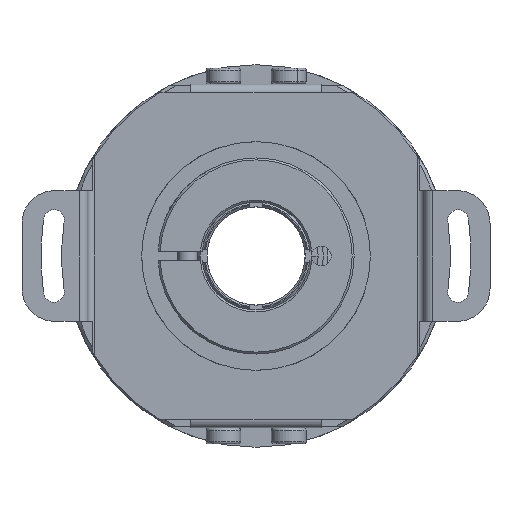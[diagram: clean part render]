
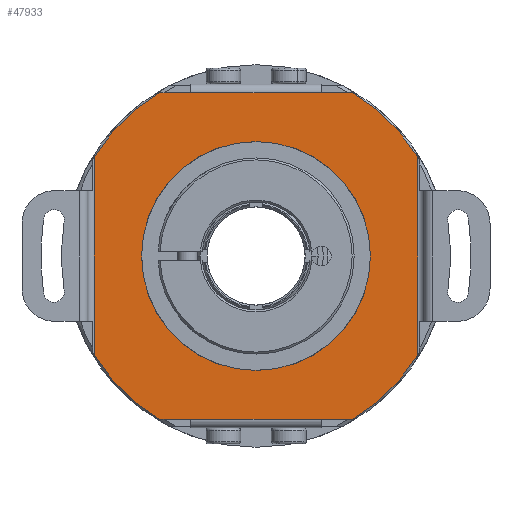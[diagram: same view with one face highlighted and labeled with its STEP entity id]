
A CAD part, front view. The second image highlights one B-rep face of the part: STEP entity #47933.
In plain terms, the highlighted planar face has unit normal (0, -1, 0).
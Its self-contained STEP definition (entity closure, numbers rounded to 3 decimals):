
#697 = ORIENTED_EDGE ( 'NONE', *, *, #27371, .T. ) ;
#1571 = LINE ( 'NONE', #15754, #12895 ) ;
#1797 = EDGE_CURVE ( 'NONE', #51554, #11754, #34292, .T. ) ;
#2557 = DIRECTION ( 'NONE',  ( -1., 0., 0. ) ) ;
#2910 = ORIENTED_EDGE ( 'NONE', *, *, #36640, .F. ) ;
#3092 = EDGE_CURVE ( 'NONE', #30265, #12645, #8109, .T. ) ;
#3160 = VECTOR ( 'NONE', #48179, 1000. ) ;
#3532 = ORIENTED_EDGE ( 'NONE', *, *, #17607, .F. ) ;
#3596 = DIRECTION ( 'NONE',  ( 1., 0., 0. ) ) ;
#3630 = DIRECTION ( 'NONE',  ( 0., 0., -1. ) ) ;
#4819 = CARTESIAN_POINT ( 'NONE',  ( -24.7, -4.194, -35.2 ) ) ;
#5109 = VERTEX_POINT ( 'NONE', #29085 ) ;
#5330 = EDGE_CURVE ( 'NONE', #48681, #32140, #10357, .T. ) ;
#5736 = ORIENTED_EDGE ( 'NONE', *, *, #11663, .F. ) ;
#6005 = FACE_OUTER_BOUND ( 'NONE', #35288, .T. ) ;
#6186 = DIRECTION ( 'NONE',  ( 0., -1., 0. ) ) ;
#7395 = DIRECTION ( 'NONE',  ( -1., 0., 0. ) ) ;
#7532 = DIRECTION ( 'NONE',  ( 0., -1., 0. ) ) ;
#7896 = EDGE_LOOP ( 'NONE', ( #40392, #2910 ) ) ;
#8109 = CIRCLE ( 'NONE', #21113, 29. ) ;
#8230 = CARTESIAN_POINT ( 'NONE',  ( -14.697, -4.194, 25. ) ) ;
#9487 = DIRECTION ( 'NONE',  ( 0., 1., 0. ) ) ;
#9539 = CARTESIAN_POINT ( 'NONE',  ( 0., -4.194, 0. ) ) ;
#9849 = DIRECTION ( 'NONE',  ( 0., 0., -1. ) ) ;
#10132 = AXIS2_PLACEMENT_3D ( 'NONE', #44111, #7532, #3630 ) ;
#10357 = CIRCLE ( 'NONE', #20238, 29. ) ;
#10972 = CARTESIAN_POINT ( 'NONE',  ( -10., -4.194, 25. ) ) ;
#11345 = EDGE_CURVE ( 'NONE', #12645, #13894, #32348, .T. ) ;
#11663 = EDGE_CURVE ( 'NONE', #13058, #32140, #20241, .T. ) ;
#11754 = VERTEX_POINT ( 'NONE', #16740 ) ;
#12418 = EDGE_CURVE ( 'NONE', #36742, #5109, #19384, .T. ) ;
#12645 = VERTEX_POINT ( 'NONE', #35882 ) ;
#12818 = VECTOR ( 'NONE', #25595, 1000. ) ;
#12895 = VECTOR ( 'NONE', #3596, 1000. ) ;
#13058 = VERTEX_POINT ( 'NONE', #35745 ) ;
#13334 = AXIS2_PLACEMENT_3D ( 'NONE', #39477, #48882, #32448 ) ;
#13725 = VECTOR ( 'NONE', #2557, 1000. ) ;
#13753 = ORIENTED_EDGE ( 'NONE', *, *, #11345, .F. ) ;
#13894 = VERTEX_POINT ( 'NONE', #45563 ) ;
#14769 = ORIENTED_EDGE ( 'NONE', *, *, #5330, .T. ) ;
#15011 = VERTEX_POINT ( 'NONE', #30638 ) ;
#15071 = CARTESIAN_POINT ( 'NONE',  ( 0., -4.194, 0. ) ) ;
#15419 = CARTESIAN_POINT ( 'NONE',  ( 0., -4.194, 0. ) ) ;
#15754 = CARTESIAN_POINT ( 'NONE',  ( -10., -4.194, 25. ) ) ;
#16709 = AXIS2_PLACEMENT_3D ( 'NONE', #15419, #27479, #26945 ) ;
#16719 = FACE_BOUND ( 'NONE', #7896, .T. ) ;
#16740 = CARTESIAN_POINT ( 'NONE',  ( -24.7, -4.194, 15.196 ) ) ;
#17607 = EDGE_CURVE ( 'NONE', #40898, #15011, #18103, .T. ) ;
#17630 = CARTESIAN_POINT ( 'NONE',  ( 24.7, -4.194, -35.2 ) ) ;
#17654 = CARTESIAN_POINT ( 'NONE',  ( 24.7, -4.194, -15.196 ) ) ;
#18103 = LINE ( 'NONE', #34326, #13725 ) ;
#18965 = VECTOR ( 'NONE', #51895, 1000. ) ;
#19384 = CIRCLE ( 'NONE', #16709, 17.5 ) ;
#20238 = AXIS2_PLACEMENT_3D ( 'NONE', #35061, #38964, #26611 ) ;
#20241 = LINE ( 'NONE', #23567, #18965 ) ;
#21101 = ORIENTED_EDGE ( 'NONE', *, *, #40939, .F. ) ;
#21113 = AXIS2_PLACEMENT_3D ( 'NONE', #29640, #9487, #9849 ) ;
#21333 = CIRCLE ( 'NONE', #13334, 29. ) ;
#21586 = VECTOR ( 'NONE', #7395, 1000. ) ;
#22160 = VECTOR ( 'NONE', #43255, 1000. ) ;
#22205 = DIRECTION ( 'NONE',  ( 0., 0., 1. ) ) ;
#22875 = AXIS2_PLACEMENT_3D ( 'NONE', #9539, #6186, #42244 ) ;
#23567 = CARTESIAN_POINT ( 'NONE',  ( 25., -4.194, 25. ) ) ;
#24171 = CIRCLE ( 'NONE', #22875, 29. ) ;
#24235 = CARTESIAN_POINT ( 'NONE',  ( 24.7, -4.194, 15.196 ) ) ;
#24254 = CIRCLE ( 'NONE', #38000, 17.5 ) ;
#24851 = EDGE_CURVE ( 'NONE', #11754, #44321, #21333, .T. ) ;
#25404 = CARTESIAN_POINT ( 'NONE',  ( -24.7, -4.194, -15.196 ) ) ;
#25595 = DIRECTION ( 'NONE',  ( 0., 0., 1. ) ) ;
#26465 = CARTESIAN_POINT ( 'NONE',  ( -5., -4.194, 25. ) ) ;
#26597 = EDGE_CURVE ( 'NONE', #13058, #27024, #32359, .T. ) ;
#26611 = DIRECTION ( 'NONE',  ( 1., 0., 0. ) ) ;
#26636 = ORIENTED_EDGE ( 'NONE', *, *, #1797, .F. ) ;
#26945 = DIRECTION ( 'NONE',  ( 0., 0., -1. ) ) ;
#27024 = VERTEX_POINT ( 'NONE', #10972 ) ;
#27313 = EDGE_CURVE ( 'NONE', #51554, #15011, #24171, .T. ) ;
#27339 = CARTESIAN_POINT ( 'NONE',  ( -5., -4.194, -25. ) ) ;
#27371 = EDGE_CURVE ( 'NONE', #30265, #48681, #50126, .T. ) ;
#27479 = DIRECTION ( 'NONE',  ( 0., -1., 0. ) ) ;
#27650 = DIRECTION ( 'NONE',  ( 0., 0., -1. ) ) ;
#29085 = CARTESIAN_POINT ( 'NONE',  ( 0., -4.194, 17.5 ) ) ;
#29640 = CARTESIAN_POINT ( 'NONE',  ( 0., -4.194, 0. ) ) ;
#30265 = VERTEX_POINT ( 'NONE', #17654 ) ;
#30638 = CARTESIAN_POINT ( 'NONE',  ( -14.697, -4.194, -25. ) ) ;
#31532 = DIRECTION ( 'NONE',  ( 0., -1., 0. ) ) ;
#32140 = VERTEX_POINT ( 'NONE', #46539 ) ;
#32348 = LINE ( 'NONE', #47493, #22160 ) ;
#32359 = LINE ( 'NONE', #26465, #21586 ) ;
#32448 = DIRECTION ( 'NONE',  ( 0., 0., 1. ) ) ;
#32936 = CARTESIAN_POINT ( 'NONE',  ( 0., -4.194, -17.5 ) ) ;
#34292 = LINE ( 'NONE', #4819, #12818 ) ;
#34326 = CARTESIAN_POINT ( 'NONE',  ( -25., -4.194, -25. ) ) ;
#35061 = CARTESIAN_POINT ( 'NONE',  ( 0., -4.194, 0. ) ) ;
#35288 = EDGE_LOOP ( 'NONE', ( #26636, #48666, #3532, #21101, #13753, #38598, #697, #14769, #5736, #44482, #37769, #44152 ) ) ;
#35745 = CARTESIAN_POINT ( 'NONE',  ( 10., -4.194, 25. ) ) ;
#35882 = CARTESIAN_POINT ( 'NONE',  ( 14.697, -4.194, -25. ) ) ;
#36102 = PLANE ( 'NONE',  #10132 ) ;
#36640 = EDGE_CURVE ( 'NONE', #5109, #36742, #24254, .T. ) ;
#36742 = VERTEX_POINT ( 'NONE', #32936 ) ;
#37769 = ORIENTED_EDGE ( 'NONE', *, *, #51899, .F. ) ;
#37908 = LINE ( 'NONE', #27339, #3160 ) ;
#38000 = AXIS2_PLACEMENT_3D ( 'NONE', #15071, #31532, #27650 ) ;
#38598 = ORIENTED_EDGE ( 'NONE', *, *, #3092, .F. ) ;
#38964 = DIRECTION ( 'NONE',  ( 0., -1., 0. ) ) ;
#39477 = CARTESIAN_POINT ( 'NONE',  ( 0., -4.194, 0. ) ) ;
#40392 = ORIENTED_EDGE ( 'NONE', *, *, #12418, .F. ) ;
#40636 = VECTOR ( 'NONE', #22205, 1000. ) ;
#40898 = VERTEX_POINT ( 'NONE', #48350 ) ;
#40939 = EDGE_CURVE ( 'NONE', #13894, #40898, #37908, .T. ) ;
#42244 = DIRECTION ( 'NONE',  ( 0., 0., -1. ) ) ;
#43255 = DIRECTION ( 'NONE',  ( -1., 0., 0. ) ) ;
#44111 = CARTESIAN_POINT ( 'NONE',  ( -5., -4.194, -35.2 ) ) ;
#44152 = ORIENTED_EDGE ( 'NONE', *, *, #24851, .F. ) ;
#44321 = VERTEX_POINT ( 'NONE', #8230 ) ;
#44482 = ORIENTED_EDGE ( 'NONE', *, *, #26597, .T. ) ;
#45563 = CARTESIAN_POINT ( 'NONE',  ( 10., -4.194, -25. ) ) ;
#46539 = CARTESIAN_POINT ( 'NONE',  ( 14.697, -4.194, 25. ) ) ;
#47493 = CARTESIAN_POINT ( 'NONE',  ( 10., -4.194, -25. ) ) ;
#47933 = ADVANCED_FACE ( 'NONE', ( #6005, #16719 ), #36102, .T. ) ;
#48179 = DIRECTION ( 'NONE',  ( -1., 0., 0. ) ) ;
#48350 = CARTESIAN_POINT ( 'NONE',  ( -10., -4.194, -25. ) ) ;
#48666 = ORIENTED_EDGE ( 'NONE', *, *, #27313, .T. ) ;
#48681 = VERTEX_POINT ( 'NONE', #24235 ) ;
#48882 = DIRECTION ( 'NONE',  ( 0., 1., 0. ) ) ;
#50126 = LINE ( 'NONE', #17630, #40636 ) ;
#51554 = VERTEX_POINT ( 'NONE', #25404 ) ;
#51895 = DIRECTION ( 'NONE',  ( 1., 0., 0. ) ) ;
#51899 = EDGE_CURVE ( 'NONE', #44321, #27024, #1571, .T. ) ;
